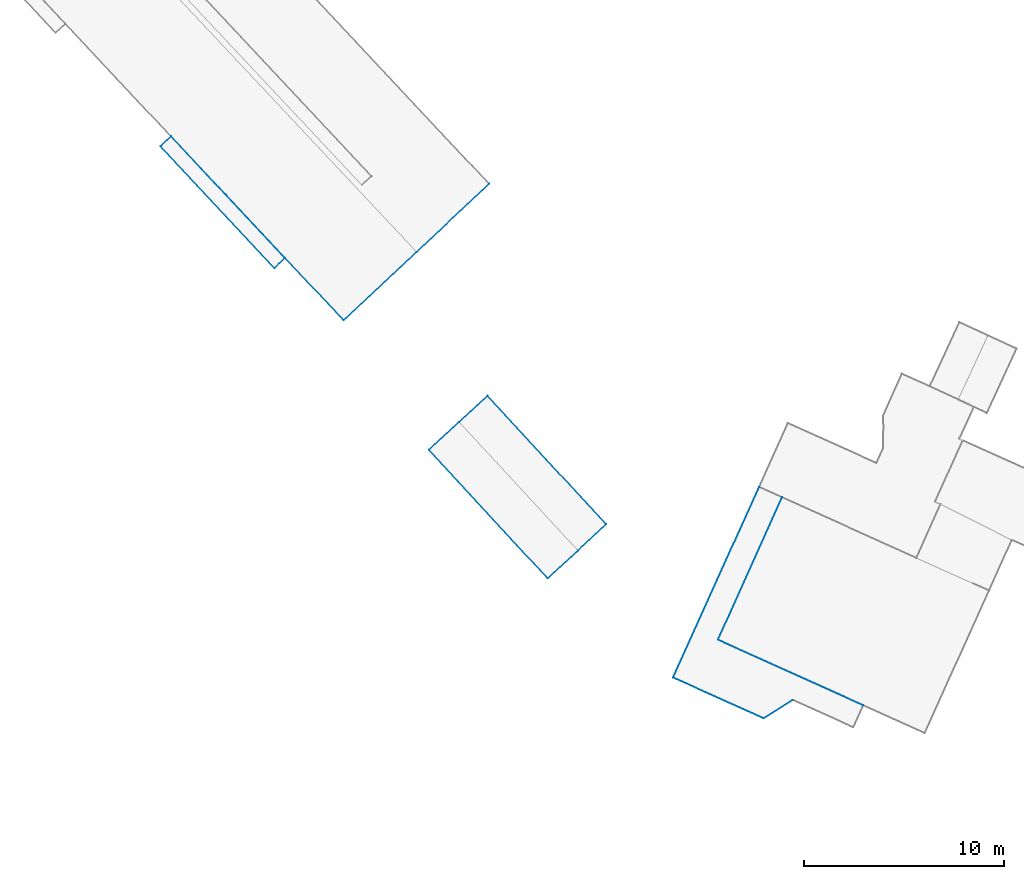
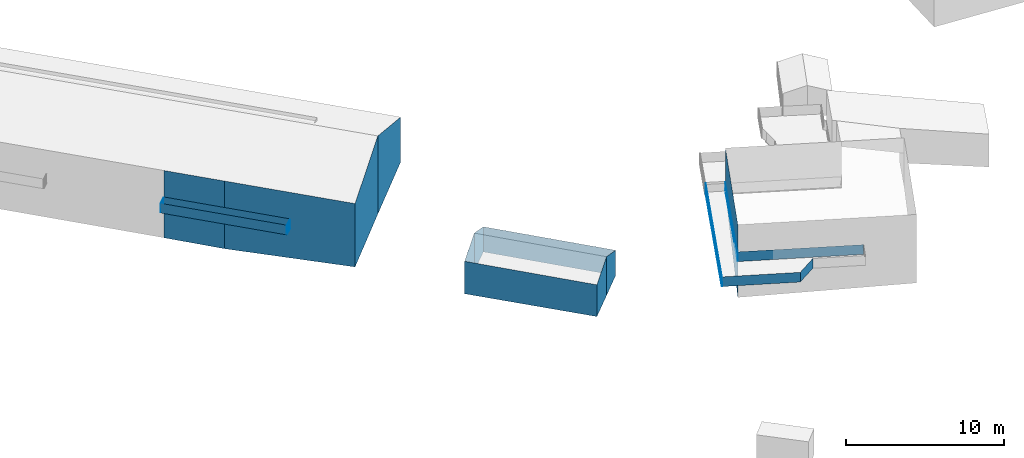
# Not in any storey, part 57 of 136: 29 walls.
"""IFC2X3 building model written with IfcOpenShell, lengths in metres."""

from ifc_helpers import new_model, entity, si_unit, converted_unit, frame, origin, place, context, subcontext, project, spatial, face_set, surface_model, element, save


model = new_model("IFC2X3")

# Units and contexts
model_context = context("Model", 3, precision=1e-05, world=origin())
body_context = subcontext(model_context, "Body", "Model", "MODEL_VIEW")
ifc_project = project(units=[converted_unit("PLANEANGLEUNIT", "DEGREE", entity("IfcRatioMeasure", 0.0174532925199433), si_unit("PLANEANGLEUNIT", "RADIAN"), dimensions=[0, 0, 0, 0, 0, 0, 0]), si_unit("AREAUNIT", "SQUARE_METRE"), si_unit("LENGTHUNIT", "METRE")], contexts=[model_context])

# Site, building
site_placement = place(None, origin())
site = spatial("IfcSite", under=ifc_project, at=site_placement, Name="_site", CompositionType="ELEMENT")
building_1_placement = place(site_placement, origin())
building_1 = spatial("IfcBuilding", under=site, at=building_1_placement, Name="_building", CompositionType="ELEMENT")

# Walls
wall_1_placement = place(building_1_placement, origin())
element("IfcWall", 1, at=wall_1_placement, inside=building_1, Name="Wall", context=body_context, shape_type="SurfaceModel", body=[
    surface_model("IfcFaceBasedSurfaceModel", [(110.26, 88.5, 43.45), (105.72, 90.54, 43.45), (105.72, 90.54, 44.2), (110.26, 88.5, 44.2)], [face_set([[[0, 1, 2, 3]]])]),
])
wall_2_placement = place(building_1_placement, origin())
element("IfcWall", 2, at=wall_2_placement, inside=building_1, Name="Wall", context=body_context, shape_type="SurfaceModel", body=[
    surface_model("IfcFaceBasedSurfaceModel", [(107.97, 92.43, 43.45), (115.25, 89.15, 43.45), (115.25, 89.15, 44.2), (107.97, 92.43, 44.2)], [face_set([[[0, 1, 2, 3]]])]),
])
for number, where, name in (
    (3, (0.0, 0.0, 0.0), "Wall"),
    (4, (0.0, 0.0, 0.0), "Wall"),
):
    element("IfcWall", number, at=place(building_1_placement, frame(where)), inside=building_1, Name=name, context=body_context, shape_type="SurfaceModel", body=[
        surface_model("IfcFaceBasedSurfaceModel", [(111.71, 89.42, 43.45), (110.26, 88.5, 43.45), (110.26, 88.5, 44.2), (111.71, 89.42, 44.2)], [face_set([[[0, 1, 2, 3]]])]),
    ])
wall_3_placement = place(building_1_placement, origin())
element("IfcWall", 5, at=wall_3_placement, inside=building_1, Name="Wall", context=body_context, shape_type="SurfaceModel", body=[
    surface_model("IfcFaceBasedSurfaceModel", [(111.18, 99.561, 43.45), (107.97, 92.43, 43.45), (107.97, 92.43, 44.2), (111.18, 99.561, 44.2)], [face_set([[[0, 1, 2, 3]]])]),
])
for number, where, name in (
    (6, (0.0, 0.0, 0.0), "Wall"),
    (7, (0.0, 0.0, 0.0), "Wall"),
):
    element("IfcWall", number, at=place(building_1_placement, frame(where)), inside=building_1, Name=name, context=body_context, shape_type="SurfaceModel", body=[
        surface_model("IfcFaceBasedSurfaceModel", [(105.72, 90.54, 43.45), (110.03, 100.08, 43.45), (110.03, 100.08, 44.2), (105.72, 90.54, 44.2)], [face_set([[[0, 1, 2, 3]]])]),
    ])
wall_4_placement = place(building_1_placement, origin())
element("IfcWall", 8, at=wall_4_placement, inside=building_1, Name="Wall", context=body_context, shape_type="SurfaceModel", body=[
    surface_model("IfcFaceBasedSurfaceModel", [(107.97, 92.43, 46.3), (111.18, 99.561, 46.77), (111.18, 99.561, 43.223), (107.97, 92.43, 40.681)], [face_set([[[0, 1, 2, 3]]])]),
])
wall_5_placement = place(building_1_placement, origin())
element("IfcWall", 9, at=wall_5_placement, inside=building_1, Name="Wall", context=body_context, shape_type="SurfaceModel", body=[
    surface_model("IfcFaceBasedSurfaceModel", [(107.97, 92.43, 43.45), (115.25, 89.15, 43.45), (115.25, 89.15, 44.2), (107.97, 92.43, 44.2)], [face_set([[[0, 1, 2, 3]]])]),
])
wall_6_placement = place(building_1_placement, origin())
element("IfcWall", 10, at=wall_6_placement, inside=building_1, Name="Wall", context=body_context, shape_type="SurfaceModel", body=[
    surface_model("IfcFaceBasedSurfaceModel", [(110.26, 88.5, 43.45), (105.72, 90.54, 43.45), (105.72, 90.54, 44.2), (110.26, 88.5, 44.2)], [face_set([[[0, 1, 2, 3]]])]),
])
wall_7_placement = place(building_1_placement, origin())
element("IfcWall", 11, at=wall_7_placement, inside=building_1, Name="Wall", context=body_context, shape_type="SurfaceModel", body=[
    surface_model("IfcFaceBasedSurfaceModel", [(111.18, 99.561, 43.45), (107.97, 92.43, 43.45), (107.97, 92.43, 44.2), (111.18, 99.561, 44.2)], [face_set([[[0, 1, 2, 3]]])]),
])

# Building
building_2_placement = place(site_placement, origin())
building_2 = spatial("IfcBuilding", under=site, at=building_2_placement, Name="_building", CompositionType="ELEMENT")

# Walls
wall_8_placement = place(building_2_placement, origin())
element("IfcWall", 12, at=wall_8_placement, inside=building_2, Name="Wall", context=body_context, shape_type="SurfaceModel", body=[
    surface_model("IfcFaceBasedSurfaceModel", [(89.24, 108.43, 44.78), (83.34, 114.71, 44.78), (83.34, 114.71, 39.555), (89.24, 108.43, 39.89)], [face_set([[[0, 1, 2, 3]]])]),
])
wall_9_placement = place(building_2_placement, origin())
element("IfcWall", 13, at=wall_9_placement, inside=building_2, Name="Wall", context=body_context, shape_type="SurfaceModel", body=[
    surface_model("IfcFaceBasedSurfaceModel", [(86.3, 111.55, 41.99), (85.77, 111.05, 41.99), (85.77, 111.05, 42.74), (86.3, 111.55, 42.74)], [face_set([[[0, 1, 2, 3]]])]),
])
wall_10_placement = place(building_2_placement, origin())
element("IfcWall", 14, at=wall_10_placement, inside=building_2, Name="Wall", context=body_context, shape_type="SurfaceModel", body=[
    surface_model("IfcFaceBasedSurfaceModel", [(80.06, 117.14, 41.99), (80.59, 117.64, 41.99), (80.59, 117.64, 42.74), (80.06, 117.14, 42.74)], [face_set([[[0, 1, 2, 3]]])]),
])
wall_11_placement = place(building_2_placement, origin())
element("IfcWall", 15, at=wall_11_placement, inside=building_2, Name="Wall", context=body_context, shape_type="SurfaceModel", body=[
    surface_model("IfcFaceBasedSurfaceModel", [(80.59, 117.64, 41.99), (86.3, 111.55, 41.99), (86.3, 111.55, 42.74), (80.59, 117.64, 42.74)], [face_set([[[0, 1, 2, 3]]])]),
])
wall_12_placement = place(building_2_placement, origin())
element("IfcWall", 16, at=wall_12_placement, inside=building_2, Name="Wall", context=body_context, shape_type="SurfaceModel", body=[
    surface_model("IfcFaceBasedSurfaceModel", [(85.77, 111.05, 41.99), (80.06, 117.14, 41.99), (80.06, 117.14, 42.74), (85.77, 111.05, 42.74)], [face_set([[[0, 1, 2, 3]]])]),
])
wall_13_placement = place(building_2_placement, origin())
element("IfcWall", 17, at=wall_13_placement, inside=building_2, Name="Wall", context=body_context, shape_type="SurfaceModel", body=[
    surface_model("IfcFaceBasedSurfaceModel", [(86.3, 111.55, 41.99), (85.77, 111.05, 41.99), (85.77, 111.05, 42.74), (86.3, 111.55, 42.74)], [face_set([[[0, 1, 2, 3]]])]),
])
wall_14_placement = place(building_2_placement, origin())
element("IfcWall", 18, at=wall_14_placement, inside=building_2, Name="Wall", context=body_context, shape_type="SurfaceModel", body=[
    surface_model("IfcFaceBasedSurfaceModel", [(83.34, 114.71, 44.78), (80.59, 117.64, 44.78), (80.59, 117.64, 39.589), (83.34, 114.71, 39.555)], [face_set([[[0, 1, 2, 3]]])]),
])
wall_15_placement = place(building_2_placement, origin())
element("IfcWall", 19, at=wall_15_placement, inside=building_2, Name="Wall", context=body_context, shape_type="SurfaceModel", body=[
    surface_model("IfcFaceBasedSurfaceModel", [(80.59, 117.64, 41.99), (86.3, 111.55, 41.99), (86.3, 111.55, 42.74), (80.59, 117.64, 42.74)], [face_set([[[0, 1, 2, 3]]])]),
])
wall_16_placement = place(building_2_placement, origin())
element("IfcWall", 20, at=wall_16_placement, inside=building_2, Name="Wall", context=body_context, shape_type="SurfaceModel", body=[
    surface_model("IfcFaceBasedSurfaceModel", [(92.88, 111.851, 46.66), (89.24, 108.43, 44.78), (89.24, 108.43, 39.89), (92.88, 111.851, 40.631)], [face_set([[[0, 1, 2, 3]]])]),
])
wall_17_placement = place(building_2_placement, origin())
element("IfcWall", 21, at=wall_17_placement, inside=building_2, Name="Wall", context=body_context, shape_type="SurfaceModel", body=[
    surface_model("IfcFaceBasedSurfaceModel", [(80.06, 117.14, 41.99), (80.59, 117.64, 41.99), (80.59, 117.64, 42.74), (80.06, 117.14, 42.74)], [face_set([[[0, 1, 2, 3]]])]),
])
wall_18_placement = place(building_2_placement, origin())
element("IfcWall", 22, at=wall_18_placement, inside=building_2, Name="Wall", context=body_context, shape_type="SurfaceModel", body=[
    surface_model("IfcFaceBasedSurfaceModel", [(96.52, 115.26, 44.78), (92.88, 111.851, 46.66), (92.88, 111.851, 40.631), (96.52, 115.26, 41.323)], [face_set([[[0, 1, 2, 3]]])]),
])
wall_19_placement = place(building_2_placement, origin())
element("IfcWall", 23, at=wall_19_placement, inside=building_2, Name="Wall", context=body_context, shape_type="SurfaceModel", body=[
    surface_model("IfcFaceBasedSurfaceModel", [(85.77, 111.05, 41.99), (80.06, 117.14, 41.99), (80.06, 117.14, 42.74), (85.77, 111.05, 42.74)], [face_set([[[0, 1, 2, 3]]])]),
])

# Building
building_3_placement = place(site_placement, origin())
building_3 = spatial("IfcBuilding", under=site, at=building_3_placement, Name="_building", CompositionType="ELEMENT")

# Walls
wall_20_placement = place(building_3_placement, origin())
element("IfcWall", 24, at=wall_20_placement, inside=building_3, Name="Wall", context=body_context, shape_type="SurfaceModel", body=[
    surface_model("IfcFaceBasedSurfaceModel", [(95.01, 103.34, 43.57), (96.43, 104.65, 42.77), (96.43, 104.65, 40.824), (95.01, 103.34, 40.625)], [face_set([[[0, 1, 2, 3]]])]),
])
wall_21_placement = place(building_3_placement, origin())
element("IfcWall", 25, at=wall_21_placement, inside=building_3, Name="Wall", context=body_context, shape_type="SurfaceModel", body=[
    surface_model("IfcFaceBasedSurfaceModel", [(99.45, 95.51, 42.77), (93.5, 101.94, 42.77), (93.5, 101.94, 40.262), (99.45, 95.51, 40.318)], [face_set([[[0, 1, 2, 3]]])]),
])
wall_22_placement = place(building_3_placement, origin())
element("IfcWall", 26, at=wall_22_placement, inside=building_3, Name="Wall", context=body_context, shape_type="SurfaceModel", body=[
    surface_model("IfcFaceBasedSurfaceModel", [(102.38, 98.22, 42.77), (100.96, 96.9, 43.57), (100.96, 96.9, 40.578), (102.38, 98.22, 40.821)], [face_set([[[0, 1, 2, 3]]])]),
])
wall_23_placement = place(building_3_placement, origin())
element("IfcWall", 27, at=wall_23_placement, inside=building_3, Name="Wall", context=body_context, shape_type="SurfaceModel", body=[
    surface_model("IfcFaceBasedSurfaceModel", [(96.43, 104.65, 42.77), (102.38, 98.22, 42.77), (102.38, 98.22, 40.821), (96.43, 104.65, 40.824)], [face_set([[[0, 1, 2, 3]]])]),
])
wall_24_placement = place(building_3_placement, origin())
element("IfcWall", 28, at=wall_24_placement, inside=building_3, Name="Wall", context=body_context, shape_type="SurfaceModel", body=[
    surface_model("IfcFaceBasedSurfaceModel", [(93.5, 101.94, 42.77), (95.01, 103.34, 43.57), (95.01, 103.34, 40.625), (93.5, 101.94, 40.262)], [face_set([[[0, 1, 2, 3]]])]),
])
wall_25_placement = place(building_3_placement, origin())
element("IfcWall", 29, at=wall_25_placement, inside=building_3, Name="Wall", context=body_context, shape_type="SurfaceModel", body=[
    surface_model("IfcFaceBasedSurfaceModel", [(100.96, 96.9, 43.57), (99.45, 95.51, 42.77), (99.45, 95.51, 40.318), (100.96, 96.9, 40.578)], [face_set([[[0, 1, 2, 3]]])]),
])

save(model, "model.ifc")
